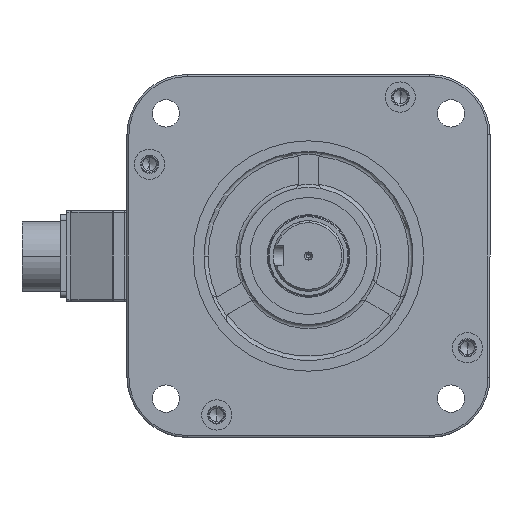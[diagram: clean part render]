
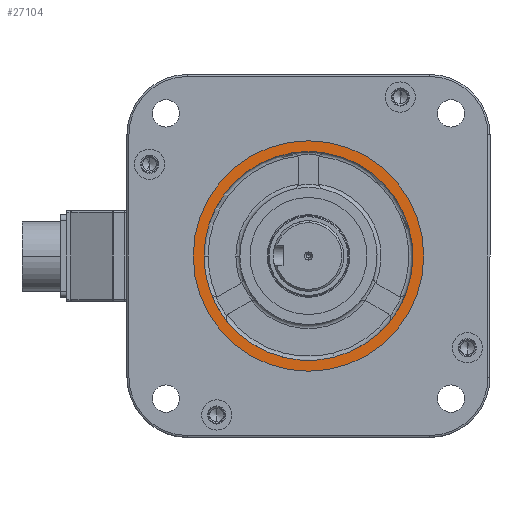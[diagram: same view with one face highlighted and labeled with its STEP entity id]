
A CAD part, left-side view. The second image highlights one B-rep face of the part: STEP entity #27104.
In plain terms, the highlighted planar face has unit normal (-1, 0, 0) as drawn and (0, 0, 1) by its records, which use the part's own axes.
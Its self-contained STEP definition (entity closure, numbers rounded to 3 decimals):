
#1076 = PLANE ( 'NONE',  #43034 ) ;
#1093 = CARTESIAN_POINT ( 'NONE',  ( 0., 0., 21. ) ) ;
#1464 = CARTESIAN_POINT ( 'NONE',  ( 0., 0., 21. ) ) ;
#2252 = EDGE_LOOP ( 'NONE', ( #14917, #19724 ) ) ;
#4160 = CIRCLE ( 'NONE', #37321, 51.75 ) ;
#4439 = CARTESIAN_POINT ( 'NONE',  ( -57.15, 0., 21. ) ) ;
#4750 = DIRECTION ( 'NONE',  ( 1., 0., 0. ) ) ;
#6115 = DIRECTION ( 'NONE',  ( 0., 0., 1. ) ) ;
#6133 = EDGE_CURVE ( 'NONE', #9113, #56331, #27264, .T. ) ;
#6499 = VERTEX_POINT ( 'NONE', #60309 ) ;
#6625 = DIRECTION ( 'NONE',  ( 0., 0., 1. ) ) ;
#6918 = DIRECTION ( 'NONE',  ( 0., 0., 1. ) ) ;
#7084 = CIRCLE ( 'NONE', #57858, 57.15 ) ;
#8063 = ORIENTED_EDGE ( 'NONE', *, *, #58910, .F. ) ;
#8941 = CARTESIAN_POINT ( 'NONE',  ( -39.963, 32.879, 21. ) ) ;
#9113 = VERTEX_POINT ( 'NONE', #8941 ) ;
#9682 = VERTEX_POINT ( 'NONE', #45701 ) ;
#9722 = AXIS2_PLACEMENT_3D ( 'NONE', #1093, #56106, #4750 ) ;
#9879 = ORIENTED_EDGE ( 'NONE', *, *, #17766, .F. ) ;
#10327 = AXIS2_PLACEMENT_3D ( 'NONE', #48806, #6918, #58299 ) ;
#11001 = VERTEX_POINT ( 'NONE', #41442 ) ;
#13578 = CARTESIAN_POINT ( 'NONE',  ( 0., 0., 21. ) ) ;
#13657 = DIRECTION ( 'NONE',  ( 0., 0., 1. ) ) ;
#14201 = DIRECTION ( 'NONE',  ( 1., 0., 0. ) ) ;
#14285 = CARTESIAN_POINT ( 'NONE',  ( 0., 0., 21. ) ) ;
#14531 = ORIENTED_EDGE ( 'NONE', *, *, #32576, .F. ) ;
#14583 = DIRECTION ( 'NONE',  ( 0., 0., 1. ) ) ;
#14788 = CARTESIAN_POINT ( 'NONE',  ( -48.455, 18.17, 21. ) ) ;
#14917 = ORIENTED_EDGE ( 'NONE', *, *, #32669, .T. ) ;
#15717 = CARTESIAN_POINT ( 'NONE',  ( 8.492, -51.048, 21. ) ) ;
#15802 = DIRECTION ( 'NONE',  ( 1., 0., 0. ) ) ;
#16088 = DIRECTION ( 'NONE',  ( 1., 0., 0. ) ) ;
#16104 = DIRECTION ( 'NONE',  ( 0., 0., 1. ) ) ;
#17766 = EDGE_CURVE ( 'NONE', #11001, #19876, #18471, .T. ) ;
#18024 = VERTEX_POINT ( 'NONE', #4439 ) ;
#18034 = ORIENTED_EDGE ( 'NONE', *, *, #32567, .F. ) ;
#18056 = EDGE_LOOP ( 'NONE', ( #8063, #9879, #18034, #48902, #27595, #26408, #14531 ) ) ;
#18471 = CIRCLE ( 'NONE', #26298, 51.75 ) ;
#19724 = ORIENTED_EDGE ( 'NONE', *, *, #43063, .T. ) ;
#19876 = VERTEX_POINT ( 'NONE', #21504 ) ;
#21504 = CARTESIAN_POINT ( 'NONE',  ( 48.455, 18.17, 21. ) ) ;
#21788 = AXIS2_PLACEMENT_3D ( 'NONE', #34747, #31051, #53998 ) ;
#23139 = DIRECTION ( 'NONE',  ( 1., 0., 0. ) ) ;
#24282 = FACE_OUTER_BOUND ( 'NONE', #2252, .T. ) ;
#24354 = DIRECTION ( 'NONE',  ( 1., 0., 0. ) ) ;
#25922 = CARTESIAN_POINT ( 'NONE',  ( -8.492, -51.048, 21. ) ) ;
#26298 = AXIS2_PLACEMENT_3D ( 'NONE', #43898, #6625, #24354 ) ;
#26408 = ORIENTED_EDGE ( 'NONE', *, *, #6133, .F. ) ;
#26492 = VERTEX_POINT ( 'NONE', #25922 ) ;
#27104 = ADVANCED_FACE ( 'NONE', ( #52093, #24282 ), #1076, .T. ) ;
#27264 = CIRCLE ( 'NONE', #9722, 51.75 ) ;
#27595 = ORIENTED_EDGE ( 'NONE', *, *, #59590, .F. ) ;
#28177 = DIRECTION ( 'NONE',  ( 1., 0., 0. ) ) ;
#28805 = CIRCLE ( 'NONE', #54228, 51.75 ) ;
#29642 = CARTESIAN_POINT ( 'NONE',  ( 0., 0., 21. ) ) ;
#31051 = DIRECTION ( 'NONE',  ( 0., 0., 1. ) ) ;
#32203 = DIRECTION ( 'NONE',  ( 0., 0., 1. ) ) ;
#32567 = EDGE_CURVE ( 'NONE', #38786, #11001, #4160, .T. ) ;
#32576 = EDGE_CURVE ( 'NONE', #6499, #9113, #40260, .T. ) ;
#32669 = EDGE_CURVE ( 'NONE', #18024, #9682, #7084, .T. ) ;
#34726 = CIRCLE ( 'NONE', #37644, 57.15 ) ;
#34747 = CARTESIAN_POINT ( 'NONE',  ( 0., 0., 21. ) ) ;
#34974 = EDGE_CURVE ( 'NONE', #26492, #38786, #43471, .T. ) ;
#36386 = CIRCLE ( 'NONE', #21788, 51.75 ) ;
#37321 = AXIS2_PLACEMENT_3D ( 'NONE', #14285, #13657, #55855 ) ;
#37644 = AXIS2_PLACEMENT_3D ( 'NONE', #57995, #16104, #15802 ) ;
#38786 = VERTEX_POINT ( 'NONE', #15717 ) ;
#40260 = CIRCLE ( 'NONE', #50011, 51.75 ) ;
#41442 = CARTESIAN_POINT ( 'NONE',  ( 51.75, 0., 21. ) ) ;
#43034 = AXIS2_PLACEMENT_3D ( 'NONE', #13578, #32203, #14201 ) ;
#43063 = EDGE_CURVE ( 'NONE', #9682, #18024, #34726, .T. ) ;
#43471 = CIRCLE ( 'NONE', #10327, 51.75 ) ;
#43898 = CARTESIAN_POINT ( 'NONE',  ( 0., 0., 21. ) ) ;
#45701 = CARTESIAN_POINT ( 'NONE',  ( 57.15, 0., 21. ) ) ;
#48187 = DIRECTION ( 'NONE',  ( 0., 0., 1. ) ) ;
#48806 = CARTESIAN_POINT ( 'NONE',  ( 0., 0., 21. ) ) ;
#48902 = ORIENTED_EDGE ( 'NONE', *, *, #34974, .F. ) ;
#50011 = AXIS2_PLACEMENT_3D ( 'NONE', #56171, #14583, #23139 ) ;
#52093 = FACE_BOUND ( 'NONE', #18056, .T. ) ;
#53998 = DIRECTION ( 'NONE',  ( 1., 0., 0. ) ) ;
#54228 = AXIS2_PLACEMENT_3D ( 'NONE', #29642, #6115, #28177 ) ;
#55855 = DIRECTION ( 'NONE',  ( 1., 0., 0. ) ) ;
#56106 = DIRECTION ( 'NONE',  ( 0., 0., 1. ) ) ;
#56171 = CARTESIAN_POINT ( 'NONE',  ( 0., 0., 21. ) ) ;
#56331 = VERTEX_POINT ( 'NONE', #14788 ) ;
#57858 = AXIS2_PLACEMENT_3D ( 'NONE', #1464, #48187, #16088 ) ;
#57995 = CARTESIAN_POINT ( 'NONE',  ( 0., 0., 21. ) ) ;
#58299 = DIRECTION ( 'NONE',  ( 1., 0., 0. ) ) ;
#58910 = EDGE_CURVE ( 'NONE', #19876, #6499, #36386, .T. ) ;
#59590 = EDGE_CURVE ( 'NONE', #56331, #26492, #28805, .T. ) ;
#60309 = CARTESIAN_POINT ( 'NONE',  ( 39.963, 32.879, 21. ) ) ;
